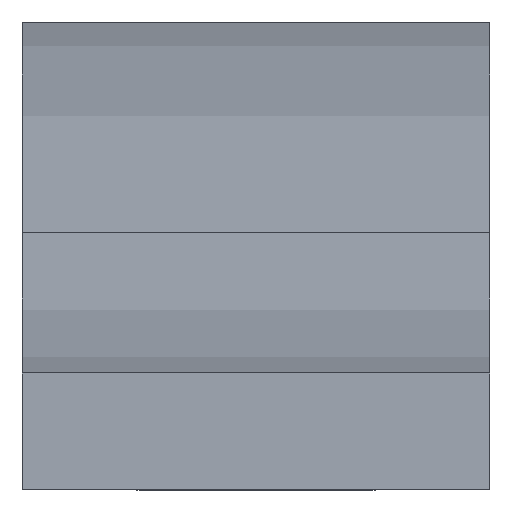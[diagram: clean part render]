
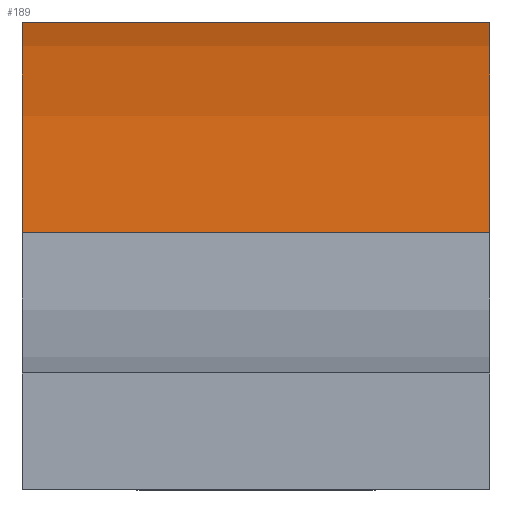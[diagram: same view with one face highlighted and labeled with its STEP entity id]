
A CAD part, left-side view. The second image highlights one B-rep face of the part: STEP entity #189.
In plain terms, the highlighted cylindrical face has radius 150 mm (diameter 300 mm), a partial arc.
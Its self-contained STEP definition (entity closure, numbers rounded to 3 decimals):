
#185 = EDGE_CURVE( '', #267, #191, #481, .T. );
#189 = ADVANCED_FACE( '', ( #486 ), #487, .T. );
#191 = VERTEX_POINT( '', #489 );
#267 = VERTEX_POINT( '', #573 );
#273 = VERTEX_POINT( '', #579 );
#299 = EDGE_CURVE( '', #301, #191, #607, .T. );
#301 = VERTEX_POINT( '', #609 );
#397 = EDGE_CURVE( '', #273, #267, #711, .T. );
#413 = EDGE_CURVE( '', #273, #301, #727, .T. );
#481 = LINE( '', #798, #799 );
#486 = FACE_OUTER_BOUND( '', #804, .T. );
#487 = CYLINDRICAL_SURFACE( '', #805, 150. );
#489 = CARTESIAN_POINT( '', ( 142.191, -15., 16.5 ) );
#573 = CARTESIAN_POINT( '', ( 142.191, 15., 16.5 ) );
#579 = CARTESIAN_POINT( '', ( 17.809, 15., 16.5 ) );
#607 = CIRCLE( '', #966, 150. );
#609 = CARTESIAN_POINT( '', ( 17.809, -15., 16.5 ) );
#711 = CIRCLE( '', #1105, 150. );
#727 = LINE( '', #1132, #1133 );
#798 = CARTESIAN_POINT( '', ( 142.191, 15., 16.5 ) );
#799 = VECTOR( '', #1216, 1. );
#804 = EDGE_LOOP( '', ( #1226, #1227, #1228, #1229 ) );
#805 = AXIS2_PLACEMENT_3D( '', #1230, #1231, #1232 );
#966 = AXIS2_PLACEMENT_3D( '', #1371, #1372, #1373 );
#1105 = AXIS2_PLACEMENT_3D( '', #1479, #1480, #1481 );
#1132 = CARTESIAN_POINT( '', ( 17.809, 15., 16.5 ) );
#1133 = VECTOR( '', #1487, 1. );
#1216 = DIRECTION( '', ( 0., -1., 0. ) );
#1226 = ORIENTED_EDGE( '', *, *, #299, .T. );
#1227 = ORIENTED_EDGE( '', *, *, #185, .F. );
#1228 = ORIENTED_EDGE( '', *, *, #397, .F. );
#1229 = ORIENTED_EDGE( '', *, *, #413, .T. );
#1230 = CARTESIAN_POINT( '', ( 80., 15., -120. ) );
#1231 = DIRECTION( '', ( 0., 1., 0. ) );
#1232 = DIRECTION( '', ( -0.415, 0., 0.91 ) );
#1371 = CARTESIAN_POINT( '', ( 80., -15., -120. ) );
#1372 = DIRECTION( '', ( 0., 1., 0. ) );
#1373 = DIRECTION( '', ( -0.415, 0., 0.91 ) );
#1479 = CARTESIAN_POINT( '', ( 80., 15., -120. ) );
#1480 = DIRECTION( '', ( 0., 1., 0. ) );
#1481 = DIRECTION( '', ( -0.415, 0., 0.91 ) );
#1487 = DIRECTION( '', ( 0., -1., 0. ) );
